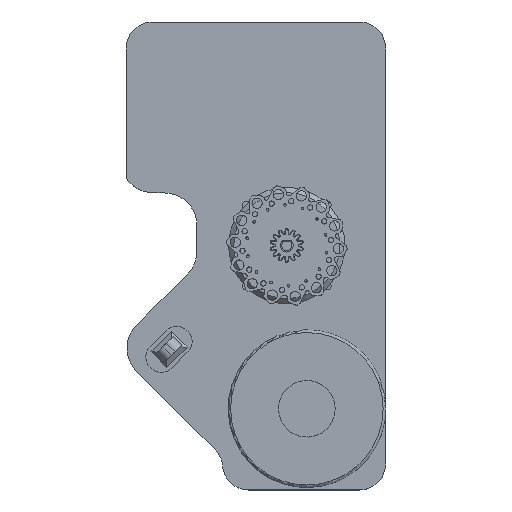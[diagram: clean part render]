
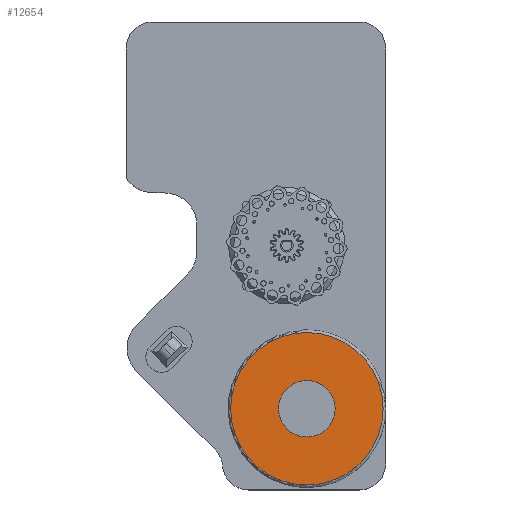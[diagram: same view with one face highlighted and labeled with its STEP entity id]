
A CAD part, top view. The second image highlights one B-rep face of the part: STEP entity #12654.
In plain terms, the highlighted planar face has unit normal (0, 0, 1).
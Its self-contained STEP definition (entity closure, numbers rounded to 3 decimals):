
#1046=CIRCLE('',#14027,29.334);
#1047=CIRCLE('',#14029,10.891);
#1225=FACE_BOUND('',#2620,.T.);
#1847=FACE_OUTER_BOUND('',#2619,.T.);
#2619=EDGE_LOOP('',(#11555));
#2620=EDGE_LOOP('',(#11556));
#6102=VERTEX_POINT('',#21551);
#6103=VERTEX_POINT('',#21555);
#7929=EDGE_CURVE('',#6102,#6102,#1046,.T.);
#7930=EDGE_CURVE('',#6103,#6103,#1047,.T.);
#11555=ORIENTED_EDGE('',*,*,#7929,.F.);
#11556=ORIENTED_EDGE('',*,*,#7930,.T.);
#12019=PLANE('',#14028);
#12654=ADVANCED_FACE('',(#1847,#1225),#12019,.T.);
#14027=AXIS2_PLACEMENT_3D('',#21553,#17794,#17795);
#14028=AXIS2_PLACEMENT_3D('',#21554,#17796,#17797);
#14029=AXIS2_PLACEMENT_3D('',#21556,#17798,#17799);
#17794=DIRECTION('center_axis',(0.,0.,
-1.));
#17795=DIRECTION('ref_axis',(0.603,0.798,0.));
#17796=DIRECTION('center_axis',(0.,0.,
1.));
#17797=DIRECTION('ref_axis',(1.,0.,0.));
#17798=DIRECTION('center_axis',(0.,0.,
-1.));
#17799=DIRECTION('ref_axis',(1.,0.,0.));
#21551=CARTESIAN_POINT('',(1277.87,-4.316,25.507));
#21553=CARTESIAN_POINT('Origin',(1248.536,-4.316,25.507));
#21554=CARTESIAN_POINT('Origin',(1229.236,-29.873,25.507));
#21555=CARTESIAN_POINT('',(1255.099,4.375,25.507));
#21556=CARTESIAN_POINT('Origin',(1248.536,-4.316,25.507));
